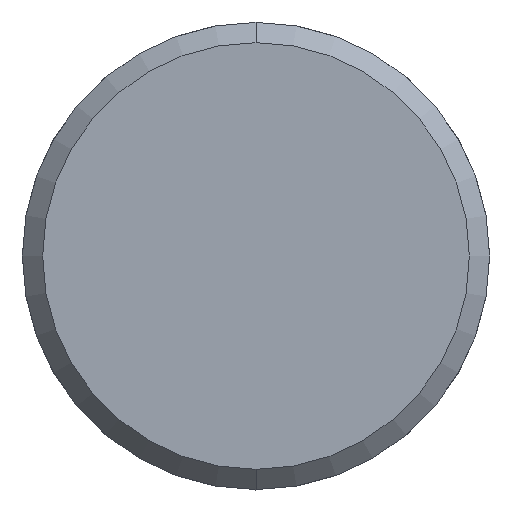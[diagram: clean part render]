
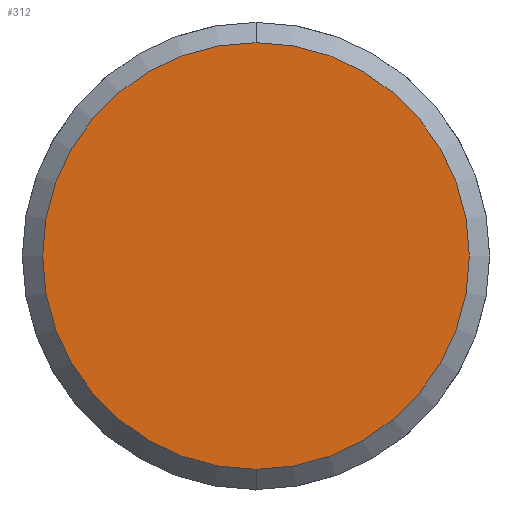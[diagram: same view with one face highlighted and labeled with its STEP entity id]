
A CAD part, front view. The second image highlights one B-rep face of the part: STEP entity #312.
In plain terms, the highlighted planar face has unit normal (0, -1, 0).
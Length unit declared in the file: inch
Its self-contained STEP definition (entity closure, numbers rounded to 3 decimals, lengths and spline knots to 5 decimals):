
#49 = DIRECTION ( 'NONE',  ( 0., 0., -1. ) ) ;
#50 = DIRECTION ( 'NONE',  ( 0., -1., 0. ) ) ;
#51 = CARTESIAN_POINT ( 'NONE',  ( -1.01411, 1.03004, 0. ) ) ;
#112 = PLANE ( 'NONE',  #1004 ) ;
#179 = EDGE_LOOP ( 'NONE', ( #1659, #1658 ) ) ;
#294 = FACE_OUTER_BOUND ( 'NONE', #179, .T. ) ;
#312 = ADVANCED_FACE ( 'NONE', ( #294 ), #112, .T. ) ;
#593 = DIRECTION ( 'NONE',  ( 0., 0., 1. ) ) ;
#594 = DIRECTION ( 'NONE',  ( 0., -1., 0. ) ) ;
#595 = CARTESIAN_POINT ( 'NONE',  ( -1.53861, 1.03004, 0. ) ) ;
#674 = DIRECTION ( 'NONE',  ( 0., 0., 1. ) ) ;
#675 = DIRECTION ( 'NONE',  ( 0., -1., 0. ) ) ;
#676 = CARTESIAN_POINT ( 'NONE',  ( -1.53861, 1.03004, 0. ) ) ;
#1004 = AXIS2_PLACEMENT_3D ( 'NONE', #51, #50, #49 ) ;
#1012 = EDGE_CURVE ( 'NONE', #1546, #1541, #1448, .T. ) ;
#1057 = EDGE_CURVE ( 'NONE', #1541, #1546, #1402, .T. ) ;
#1069 = AXIS2_PLACEMENT_3D ( 'NONE', #595, #594, #593 ) ;
#1087 = AXIS2_PLACEMENT_3D ( 'NONE', #676, #675, #674 ) ;
#1294 = CARTESIAN_POINT ( 'NONE',  ( -1.53861, 1.03004, -0.658 ) ) ;
#1299 = CARTESIAN_POINT ( 'NONE',  ( -1.53861, 1.03004, 0.658 ) ) ;
#1402 = CIRCLE ( 'NONE', #1069, 0.658 ) ;
#1448 = CIRCLE ( 'NONE', #1087, 0.658 ) ;
#1541 = VERTEX_POINT ( 'NONE', #1294 ) ;
#1546 = VERTEX_POINT ( 'NONE', #1299 ) ;
#1658 = ORIENTED_EDGE ( 'NONE', *, *, #1057, .T. ) ;
#1659 = ORIENTED_EDGE ( 'NONE', *, *, #1012, .T. ) ;
